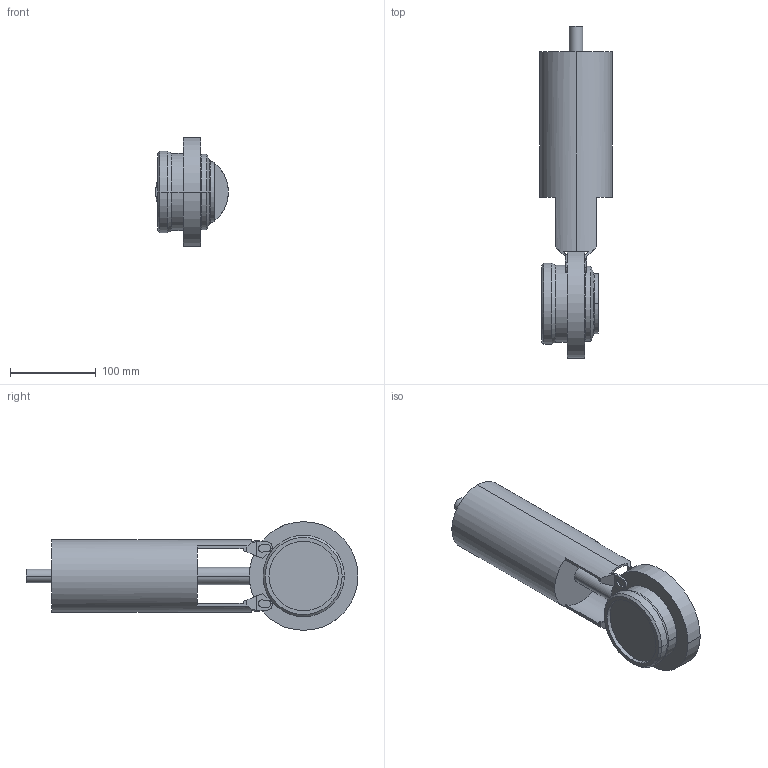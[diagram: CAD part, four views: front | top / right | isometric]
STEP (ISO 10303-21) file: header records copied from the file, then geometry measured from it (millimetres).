
FILE_DESCRIPTION(('Creo Elements/Direct Modeling STEP Export'),'2;1');
FILE_NAME('SV1-65-FZ-1S-2G.stp','2012-11-06T14:21:40',(''),(''),'Creo Elements/Direct Modeling STEP processor for AP214 (Solid Model)','Creo Elements/Direct Modeling 17.0D 15-Jul-2011 (C) Parametric Technology GmbH','');
FILE_SCHEMA(('AUTOMOTIVE_DESIGN { 1 0 10303 214 1 1 1 1 }'));
Length unit declared in the file: millimetre
Products named in the file (2): SV1-65-FZ-1S-2G
Assembly tree (1 placements, depth 2):
  SV1-65-FZ-1S-2G
    SV1-65-FZ-1S-2G
Bounding box: 85 x 387.93 x 127 mm (x, y, z)
Volume: 1502647.7 mm3; surface area: 125839.3 mm2
Topology: 1 solids, 1 shells, 117 faces, 313 edges, 200 vertices
Faces by surface type: plane 73, cylinder 34, cone 6, torus 4
Entity records: 3505 total; most frequent: CARTESIAN_POINT 627, ORIENTED_EDGE 626, DIRECTION 557, EDGE_CURVE 313, VERTEX_POINT 200, AXIS2_PLACEMENT_3D 186, VECTOR 185, LINE 185
